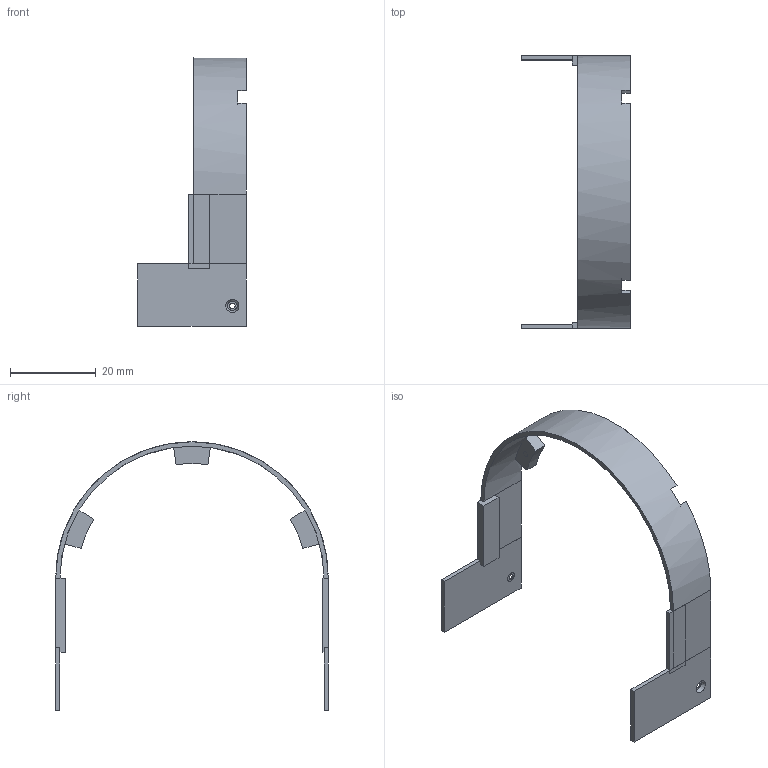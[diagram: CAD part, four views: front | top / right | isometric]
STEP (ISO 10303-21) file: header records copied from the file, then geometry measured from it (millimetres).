
FILE_DESCRIPTION(('FreeCAD Model'),'2;1');
FILE_NAME('/Users/alberto/Desktop/Dtto v2.0.1 STEP/003-1.step', '2017-05-29T11:39:27',('Author'),(''), 'Open CASCADE STEP processor 6.8','FreeCAD','Unknown');
FILE_SCHEMA(('AUTOMOTIVE_DESIGN_CC2 { 1 2 10303 214 -1 1 5 4 }'));
Length unit declared in the file: millimetre
Products named in the file (8): ASSEMBLY; Cubo472; Cubo294; Cubo295; Cut053; Cut057; Cut212; Cubo471
Assembly tree (7 placements, depth 2):
  ASSEMBLY
    Cubo472
    Cubo294
    Cubo295
    Cut053
    Cut057
    Cut212
    Cubo471
Bounding box: 25.3 x 63.5 x 62.5 mm (x, y, z)
Volume: 2917.6 mm3; surface area: 5938.5 mm2
Topology: 7 solids, 7 shells, 80 faces, 177 edges, 116 vertices
Faces by surface type: plane 64, cylinder 14, cone 2
Full cylindrical faces by diameter (mm): 1.3 x5
Entity records: 4726 total; most frequent: CARTESIAN_POINT 871, DIRECTION 708, LINE 387, VECTOR 387, ORIENTED_EDGE 354, PCURVE 354, DEFINITIONAL_REPRESENTATION 354, EDGE_CURVE 177
